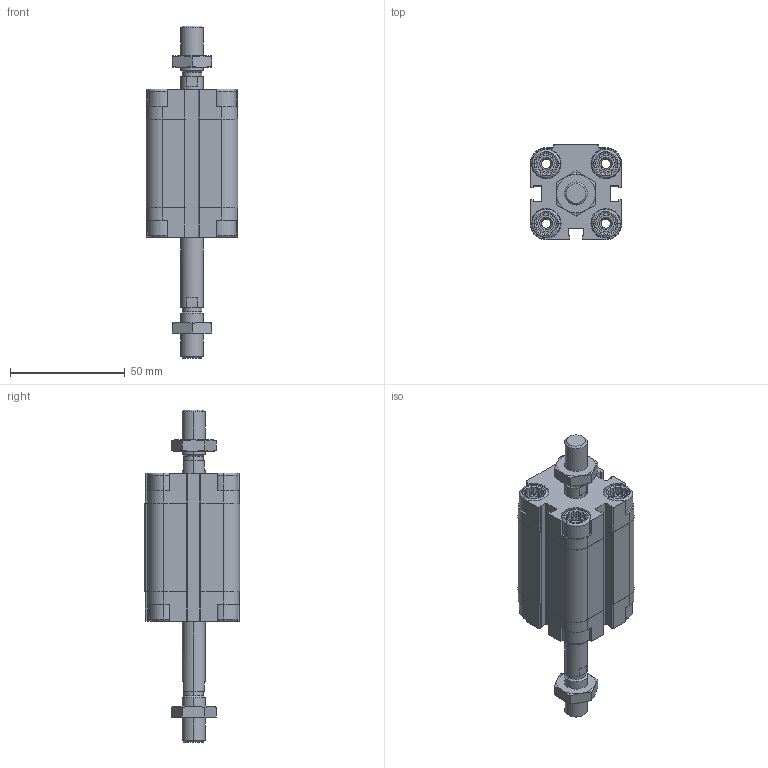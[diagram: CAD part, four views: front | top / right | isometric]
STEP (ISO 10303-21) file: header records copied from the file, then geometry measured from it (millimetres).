
FILE_DESCRIPTION (( 'STEP AP203' ), '1' );
FILE_NAME ('CDVU25-25M-P.STEP', '2020-07-21T15:11:31', ( '' ), ( '' ), 'SwSTEP 2.0', 'SolidWorks 2019', '' );
FILE_SCHEMA (( 'CONFIG_CONTROL_DESIGN' ));
Length unit declared in the file: millimetre
Products named in the file (1): CDVU25-25M-P
Bounding box: 40 x 41.5 x 144.5 mm (x, y, z)
Volume: 82880.6 mm3; surface area: 34609.6 mm2
Topology: 4 solids, 4 shells, 632 faces, 1650 edges, 1062 vertices
Faces by surface type: plane 372, cylinder 180, cone 64, torus 16
Entity records: 20069 total; most frequent: CARTESIAN_POINT 4485, ORIENTED_EDGE 3292, DIRECTION 3152, EDGE_CURVE 1646, AXIS2_PLACEMENT_3D 1089, VERTEX_POINT 1062, VECTOR 974, LINE 974
